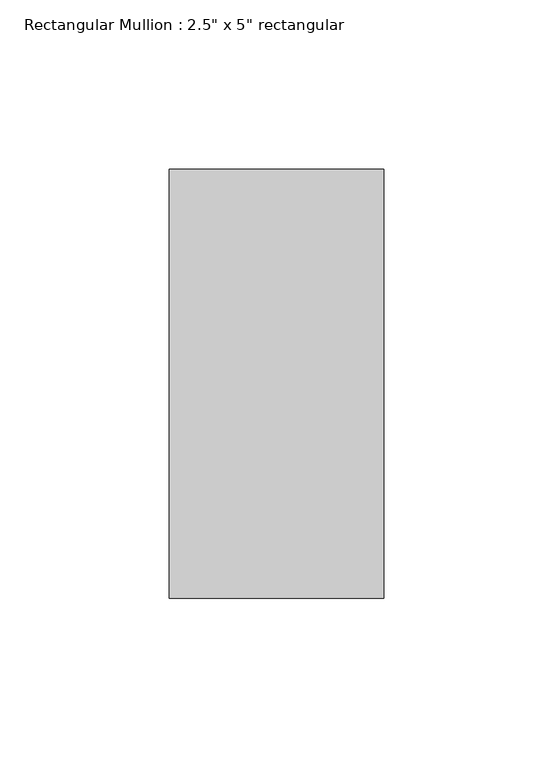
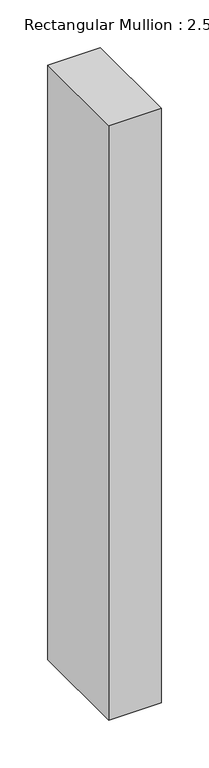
"""IFC4 building model written with IfcOpenShell, lengths in millimetres: member geometry."""

from ifc_helpers import new_model, si_unit, frame, origin, place, context, project, spatial, polyline, outline, extrude, source, transform, mapped, element, save


def member_eb4c3d57(model_context):
    return source(origin(), model_context, "Body", "SweptSolid", [
        extrude(outline(polyline([(31.75, 63.5), (31.75, -63.5), (-31.75, -63.5), (-31.75, 63.5), (31.75, 63.5)])), frame((0.0, 0.0, -758.825), z_axis=(0.0, 0.0, 1.0), x_axis=(1.0, 0.0, 0.0)), (0.0, 0.0, 1.0), 758.825),
    ])


if __name__ == "__main__":
    model = new_model("IFC4")
    model_context = context("Model", 3, world=origin())
    ifc_project = project(units=[si_unit("LENGTHUNIT", "METRE", prefix="MILLI")], contexts=[model_context])
    site = spatial("IfcSite", under=ifc_project)
    building = spatial("IfcBuilding", under=site)
    placement = place(None, origin())
    member_shape = member_eb4c3d57(model_context)
    element("IfcMember", 1, ObjectType="Rectangular Mullion : 2.5\" x 5\" rectangular", at=placement, inside=building, context=model_context, shape_type="MappedRepresentation", body=[
        mapped(member_shape, transform((0.0, 0.0, 0.0), x_axis=(1.0, 0.0, 0.0), y_axis=(0.0, 1.0, 0.0), z_axis=(0.0, 0.0, 1.0))),
    ])
    save(model, "model.ifc")
